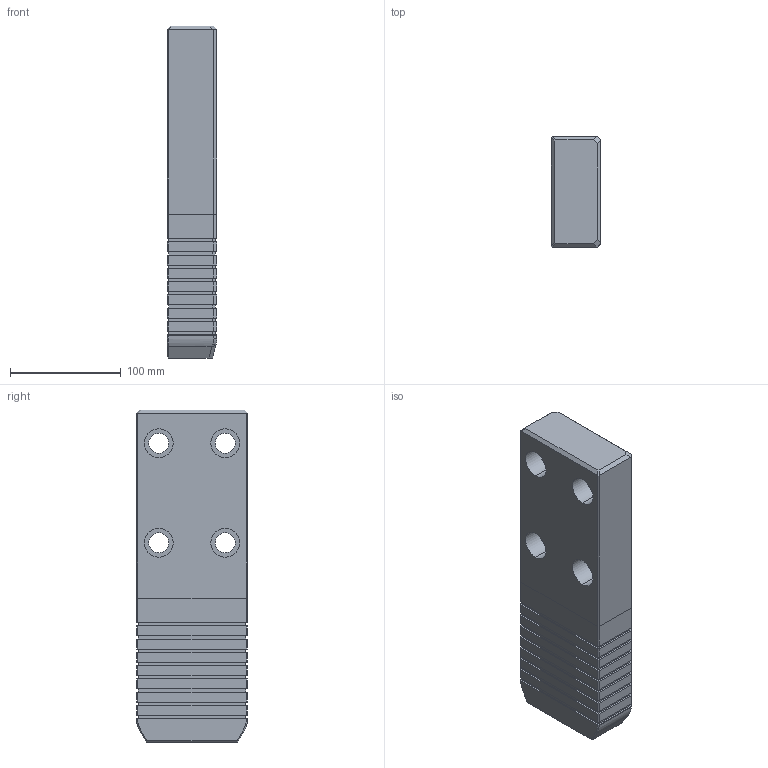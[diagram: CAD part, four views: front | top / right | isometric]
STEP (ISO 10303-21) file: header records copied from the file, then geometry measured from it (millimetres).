
FILE_DESCRIPTION((''),'2;1');
FILE_NAME('','2010-08-30T13:13:15+09:00',('misumi'),(''),'M/STEP i/f 1R2-14','CADmeister v5.1','');
FILE_SCHEMA(('AUTOMOTIVE_DESIGN'));
Length unit declared in the file: millimetre
Products named in the file (1): GWBZ100-300
Bounding box: 45 x 100 x 300 mm (x, y, z)
Volume: 1257693.2 mm3; surface area: 110351.9 mm2
Topology: 1 solids, 1 shells, 212 faces, 545 edges, 356 vertices
Faces by surface type: plane 183, cylinder 21, bspline 6, cone 2
Entity records: 6703 total; most frequent: CARTESIAN_POINT 1456, ORIENTED_EDGE 1090, DIRECTION 981, EDGE_CURVE 545, LINE 487, VECTOR 487, VERTEX_POINT 356, AXIS2_PLACEMENT_3D 247
